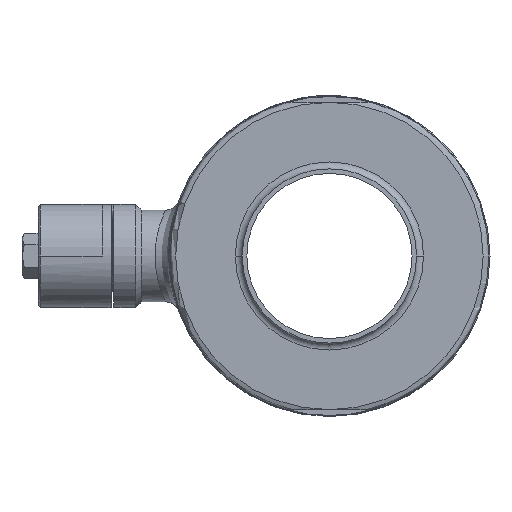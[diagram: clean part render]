
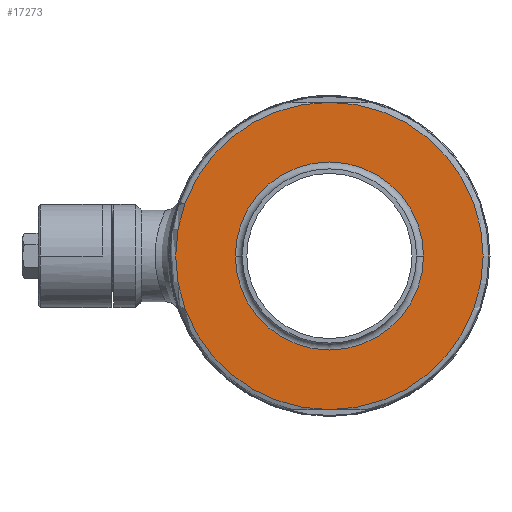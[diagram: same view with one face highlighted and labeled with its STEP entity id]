
A CAD part, left-side view. The second image highlights one B-rep face of the part: STEP entity #17273.
In plain terms, the highlighted planar face has unit normal (-1, 0, 0).
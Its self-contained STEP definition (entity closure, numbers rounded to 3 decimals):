
#4361=CARTESIAN_POINT('',(-65.,0.,0.));
#4362=DIRECTION('',(-1.,0.,0.));
#4363=DIRECTION('',(0.,1.,0.));
#4364=AXIS2_PLACEMENT_3D('',#4361,#4362,#4363);
#4445=CARTESIAN_POINT('',(-65.,0.,0.));
#4446=DIRECTION('',(-1.,0.,0.));
#4447=DIRECTION('',(0.,0.,-1.));
#4448=AXIS2_PLACEMENT_3D('',#4445,#4446,#4447);
#4518=CARTESIAN_POINT('',(-65.,0.,0.));
#4519=DIRECTION('',(-1.,0.,0.));
#4520=DIRECTION('',(0.,0.,1.));
#4521=AXIS2_PLACEMENT_3D('',#4518,#4519,#4520);
#4526=CARTESIAN_POINT('',(-65.,0.,-67.));
#4578=CARTESIAN_POINT('',(-65.,0.,67.));
#4703=CARTESIAN_POINT('',(-65.,0.,0.));
#4704=DIRECTION('',(-1.,0.,0.));
#4705=DIRECTION('',(0.,-1.,0.));
#4706=AXIS2_PLACEMENT_3D('',#4703,#4704,#4705);
#14047=CARTESIAN_POINT('',(-65.,-41.,0.));
#14048=CARTESIAN_POINT('',(-65.,41.,0.));
#14049=VERTEX_POINT('',#14047);
#14050=VERTEX_POINT('',#14048);
#14067=VERTEX_POINT('',#4578);
#14070=VERTEX_POINT('',#4526);
#17257=CARTESIAN_POINT('',(-65.,0.,0.));
#17258=DIRECTION('',(-1.,0.,0.));
#17259=DIRECTION('',(0.,1.,0.));
#17260=AXIS2_PLACEMENT_3D('',#17257,#17258,#17259);
#17261=PLANE('',#17260);
#17263=ORIENTED_EDGE('',*,*,#17262,.F.);
#17265=ORIENTED_EDGE('',*,*,#17264,.F.);
#17266=EDGE_LOOP('',(#17263,#17265));
#17267=FACE_OUTER_BOUND('',#17266,.F.);
#17268=ORIENTED_EDGE('',*,*,#17247,.T.);
#17270=ORIENTED_EDGE('',*,*,#17269,.T.);
#17271=EDGE_LOOP('',(#17268,#17270));
#17272=FACE_BOUND('',#17271,.F.);
#17273=ADVANCED_FACE('',(#17267,#17272),#17261,.T.);
#4365=CIRCLE('',#4364,41.);
#4449=CIRCLE('',#4448,67.);
#4522=CIRCLE('',#4521,67.);
#4707=CIRCLE('',#4706,41.);
#17247=EDGE_CURVE('',#14050,#14049,#4365,.T.);
#17262=EDGE_CURVE('',#14070,#14067,#4449,.T.);
#17264=EDGE_CURVE('',#14067,#14070,#4522,.T.);
#17269=EDGE_CURVE('',#14049,#14050,#4707,.T.);
